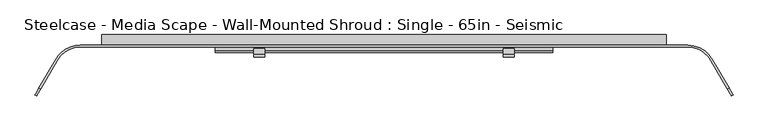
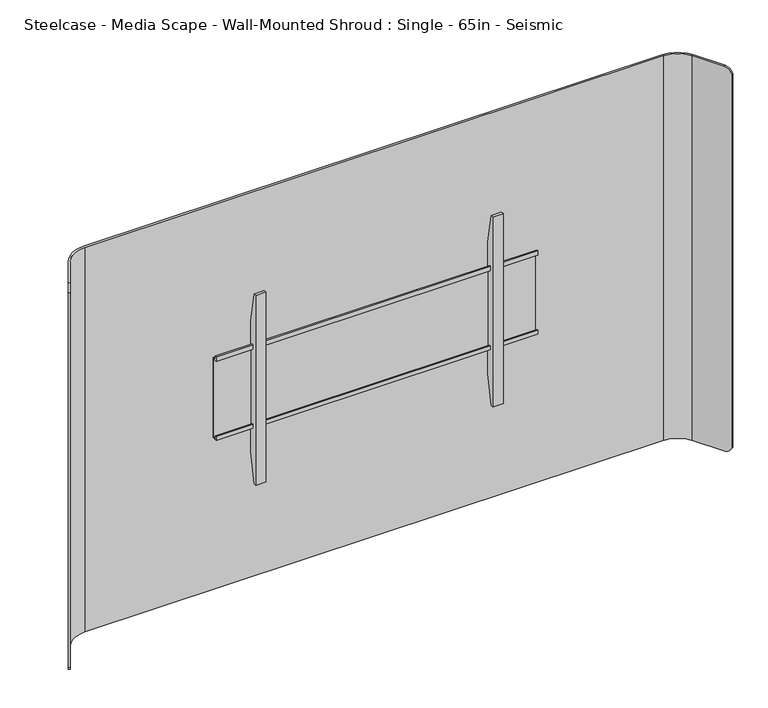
"""IFC4 building model written with IfcOpenShell, lengths in millimetres: furniture geometry, Steelcase - Media Scape - Wall-Mounted Shroud : Single - 65in - Seismic."""

from ifc_helpers import new_model, si_unit, frame, origin, place, context, project, spatial, polyline, circle_curve, outline, extrude, source, transform, mapped, element, save
from ifc_brep_helpers import plane_surface, cylinder_surface, revolved_surface, advanced_brep


def steelcase_media_scape_wall_mounted_shroud_single_65in_a4da2b3e(model_context):
    return source(origin(), model_context, "Body", "SolidModel", [
        extrude(outline(polyline([(-42.4942785, 1453.5504726), (-42.4942785, 1465.5645649), (-39.8272175, 1465.5645649), (-39.8272175, 1456.217461), (-29.9720009, 1456.217461), (-29.9720009, 1241.8922438), (-42.3164551, 1241.8922438), (-42.3164551, 1252.8142515), (-39.649394, 1252.8142515), (-39.649394, 1244.557052), (-32.6531824, 1244.557052), (-32.6531824, 1453.5504726), (-42.4942785, 1453.5504726)])), frame((-406.4, 0.0, 0.0), z_axis=(1.0, 0.0, 0.0), x_axis=(0.0, 1.0, 0.0)), (0.0, 0.0, 1.0), 812.8),
        extrude(outline(polyline([(-32.6531824, 1524.4971148), (-32.6531824, 1172.6825607), (-46.5049349, 1095.0546949), (-53.3399828, 1095.0546949), (-53.3399828, 1603.0547192), (-46.5050076, 1603.0547192), (-32.6531824, 1524.4971148)])), frame((286.6392868, 0.0, 0.0), z_axis=(1.0, 0.0, 0.0), x_axis=(0.0, 1.0, 0.0)), (0.0, 0.0, 1.0), 26.1592872),
        extrude(outline(polyline([(-32.6531824, 1524.4971148), (-32.6531824, 1172.6825607), (-46.5049349, 1095.0546949), (-53.3399828, 1095.0546949), (-53.3399828, 1603.0547192), (-46.5050076, 1603.0547192), (-32.6531824, 1524.4971148)])), frame((-312.798574, 0.0, 0.0), z_axis=(1.0, 0.0, 0.0), x_axis=(0.0, 1.0, 0.0)), (0.0, 0.0, 1.0), 26.1592872),
        extrude(outline(polyline([(679.45, -25.4), (-679.45, -25.4), (-679.45, 0.0), (679.45, 0.0), (679.45, -25.4)])), frame((0.0, 0.0, 835.914), z_axis=(0.0, 0.0, 1.0), x_axis=(1.0, 0.0, 0.0)), (0.0, 0.0, 1.0), 76.2508167),
        advanced_brep(
        [(-786.2586135, -61.722, 1864.614), (-731.266002, -29.9720009, 1864.614), (731.266, -29.9720009, 1864.614), (786.2586135, -61.722, 1864.614), (826.379586, -131.2135628, 1864.614), (830.3390541, -128.9275628, 1864.614), (790.2180817, -59.436, 1864.614), (731.266002, -25.4, 1864.614), (-731.266, -25.4, 1864.614), (-790.2180817, -59.436, 1864.614), (-830.3421659, -128.9329524, 1864.614), (-826.3826977, -131.2189524, 1864.614), (-790.2180817, -59.436, 835.914), (-731.266002, -25.4, 835.914), (731.266, -25.4, 835.914), (790.2180817, -59.436, 835.914), (830.3906629, -129.0169518, 835.914), (826.4311948, -131.3029518, 835.914), (786.2586135, -61.722, 835.914), (731.266002, -29.9720009, 835.914), (-731.266, -29.9720009, 835.914), (-786.2586135, -61.722, 835.914), (-826.4454014, -131.3275584, 835.914), (-830.4048695, -129.0415584, 835.914), (-839.9090632, -145.5033047, 849.5242766), (-839.9090632, -145.5033047, 1850.6227735), (-835.9495951, -147.7893047, 1850.6227735), (-835.9495951, -147.7893047, 849.5242766), (835.9270866, -147.7503189, 849.4756893), (835.9270866, -147.7503189, 1850.7433849), (839.8865547, -145.4643189, 1850.7433849), (839.8865547, -145.4643189, 849.4756893)],
        [
            (0, 1, circle_curve(frame((-731.266002, -93.4719991, 1864.614), z_axis=(0.0, 0.0, -1.0), x_axis=(0.0, 1.0, 0.0)), 63.4999981)),
            (1, 2),
            (2, 3, circle_curve(frame((731.266002, -93.4719991, 1864.614), z_axis=(0.0, 0.0, -1.0), x_axis=(0.0, 1.0, 0.0)), 63.4999981)),
            (3, 4),
            (4, 5),
            (5, 6),
            (6, 7, circle_curve(frame((731.2660004, -93.472, 1864.614), z_axis=(0.0, 0.0, 1.0), x_axis=(0.0, 1.0, 0.0)), 68.072)),
            (7, 8),
            (8, 9, circle_curve(frame((-731.2660004, -93.472, 1864.614), z_axis=(0.0, 0.0, 1.0), x_axis=(0.0, 1.0, 0.0)), 68.072)),
            (9, 10),
            (10, 11),
            (11, 0),
            (12, 13, circle_curve(frame((-731.2660004, -93.472, 835.914), z_axis=(0.0, 0.0, -1.0), x_axis=(0.0, 1.0, 0.0)), 68.072)),
            (13, 14),
            (14, 15, circle_curve(frame((731.2660004, -93.472, 835.914), z_axis=(0.0, 0.0, -1.0), x_axis=(0.0, 1.0, 0.0)), 68.072)),
            (15, 16),
            (16, 17),
            (17, 18),
            (18, 19, circle_curve(frame((731.266002, -93.4719991, 835.914), z_axis=(0.0, 0.0, 1.0), x_axis=(0.0, 1.0, 0.0)), 63.4999981)),
            (19, 20),
            (20, 21, circle_curve(frame((-731.266002, -93.4719991, 835.914), z_axis=(0.0, 0.0, 1.0), x_axis=(0.0, 1.0, 0.0)), 63.4999981)),
            (21, 22),
            (22, 23),
            (23, 12),
            (0, 21),
            (20, 1),
            (8, 13),
            (12, 9),
            (23, 24, circle_curve(frame((-830.4048695, -129.0415584, 855.9928872), z_axis=(-0.8660254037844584, 0.49999999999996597, 0.0), x_axis=(-0.49999999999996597, -0.8660254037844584, 0.0)), 20.0788872)),
            (24, 25),
            (25, 10, circle_curve(frame((-830.3421659, -128.9329524, 1844.5351128), z_axis=(-0.8660254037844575, 0.4999999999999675, 0.0), x_axis=(-0.4999999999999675, -0.8660254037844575, 0.0)), 20.0788872)),
            (26, 25),
            (24, 27),
            (27, 26),
            (11, 26, circle_curve(frame((-826.3826977, -131.2189524, 1844.5351128), z_axis=(0.8660254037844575, -0.4999999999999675, 0.0), x_axis=(-0.4999999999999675, -0.8660254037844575, 0.0)), 20.0788872)),
            (27, 22, circle_curve(frame((-826.4454014, -131.3275584, 855.9928872), z_axis=(0.8660254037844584, -0.49999999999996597, 0.0), x_axis=(-0.49999999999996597, -0.8660254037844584, 0.0)), 20.0788872)),
            (7, 14),
            (19, 2),
            (3, 18),
            (17, 28, circle_curve(frame((826.4311948, -131.3029518, 855.9928872), z_axis=(-0.8660254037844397, -0.49999999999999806, 0.0), x_axis=(0.49999999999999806, -0.8660254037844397, 0.0)), 20.0788872)),
            (28, 29),
            (29, 4, circle_curve(frame((826.379586, -131.2135628, 1844.5351128), z_axis=(-0.8660254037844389, -0.49999999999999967, 0.0), x_axis=(0.49999999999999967, -0.8660254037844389, 0.0)), 20.0788872)),
            (30, 29),
            (28, 31),
            (31, 30),
            (15, 6),
            (5, 30, circle_curve(frame((830.3390541, -128.9275628, 1844.5351128), z_axis=(0.8660254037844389, 0.49999999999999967, 0.0), x_axis=(0.49999999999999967, -0.8660254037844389, 0.0)), 20.0788872)),
            (31, 16, circle_curve(frame((830.3906629, -129.0169518, 855.9928872), z_axis=(0.8660254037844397, 0.49999999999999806, 0.0), x_axis=(0.49999999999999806, -0.8660254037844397, 0.0)), 20.0788872)),
        ],
        [
            plane_surface(frame((-731.266002, -29.9720009, 1864.614), z_axis=(0.0, 0.0, 1.0), x_axis=(1.0, 0.0, 0.0))),
            plane_surface(frame((-731.266002, -29.9720009, 835.914), z_axis=(0.0, 0.0, -1.0), x_axis=(-1.0, 0.0, 0.0))),
            revolved_surface(polyline([(-731.266002, -29.972001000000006, 835.914), (-731.266002, -29.972001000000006, 1864.614)]), (-731.266002, -93.4719991, 835.914), (0.0, 0.0, -1.0)),
            cylinder_surface(frame((-731.2660004, -93.472, 835.914), z_axis=(0.0, 0.0, 1.0), x_axis=(0.0, 1.0, 0.0)), 68.072),
            plane_surface(frame((-790.2180817, -59.436, 1864.614), z_axis=(-0.8660254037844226, 0.5000000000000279, 0.0), x_axis=(0.0, 0.0, -1.0))),
            plane_surface(frame((-839.9090632, -145.5033047, 1864.614), z_axis=(-0.5000000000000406, -0.8660254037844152, 0.0), x_axis=(0.0, 0.0, -1.0))),
            plane_surface(frame((-835.9495951, -147.7893047, 1864.614), z_axis=(0.8660254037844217, -0.5000000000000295, 0.0), x_axis=(0.0, 0.0, -1.0))),
            plane_surface(frame((731.266, -25.4, 1864.614), z_axis=(0.0, 1.0, 0.0), x_axis=(0.0, 0.0, -1.0))),
            plane_surface(frame((-731.266, -29.9720009, 1864.614), z_axis=(0.0, -1.0, 0.0), x_axis=(0.0, 0.0, -1.0))),
            plane_surface(frame((786.2586135, -61.722, 1864.614), z_axis=(-0.8660254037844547, -0.4999999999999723, 0.0), x_axis=(0.0, 0.0, -1.0))),
            plane_surface(frame((835.9270866, -147.7503189, 1864.614), z_axis=(0.4999999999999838, -0.866025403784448, 0.0), x_axis=(0.0, 0.0, -1.0))),
            plane_surface(frame((839.8865547, -145.4643189, 1864.614), z_axis=(0.8660254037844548, 0.49999999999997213, 0.0), x_axis=(0.0, 0.0, -1.0))),
            cylinder_surface(frame((731.2660004, -93.472, 835.914), z_axis=(0.0, 0.0, 1.0), x_axis=(0.0, 1.0, 0.0)), 68.072),
            revolved_surface(polyline([(731.266002, -29.972001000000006, 835.914), (731.266002, -29.972001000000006, 1864.614)]), (731.266002, -93.4719991, 835.914), (0.0, 0.0, -1.0)),
            cylinder_surface(frame((-826.3826977, -131.2189524, 1844.5351128), z_axis=(0.8660254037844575, -0.4999999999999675, 0.0), x_axis=(-0.4999999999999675, -0.8660254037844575, 0.0)), 20.0788872),
            cylinder_surface(frame((-826.4454014, -131.3275584, 855.9928872), z_axis=(0.8660254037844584, -0.49999999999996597, 0.0), x_axis=(-0.49999999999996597, -0.8660254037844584, 0.0)), 20.0788872),
            cylinder_surface(frame((841.4864297, -122.4916225, 1844.5351128), z_axis=(0.8660254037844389, 0.49999999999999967, 0.0), x_axis=(0.49999999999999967, -0.8660254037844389, 0.0)), 20.0788872),
            cylinder_surface(frame((838.6789695, -124.2316958, 855.9928872), z_axis=(0.8660254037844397, 0.49999999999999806, 0.0), x_axis=(0.49999999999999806, -0.8660254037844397, 0.0)), 20.0788872),
        ],
        [
            (0, [[1, 2, 3, 4, 5, 6, 7, 8, 9, 10, 11, 12]]),
            (1, [[13, 14, 15, 16, 17, 18, 19, 20, 21, 22, 23, 24]]),
            (2, [[-1, 25, -21, 26]]),
            (3, [[-9, 27, -13, 28]]),
            (4, [[-28, -24, 29, 30, 31, -10]]),
            (5, [[32, -30, 33, 34]]),
            (6, [[-25, -12, 35, -34, 36, -22]]),
            (7, [[-8, 37, -14, -27]]),
            (8, [[-2, -26, -20, 38]]),
            (9, [[39, -18, 40, 41, 42, -4]]),
            (10, [[43, -41, 44, 45]]),
            (11, [[46, -6, 47, -45, 48, -16]]),
            (12, [[-7, -46, -15, -37]]),
            (13, [[-3, -38, -19, -39]]),
            (14, [[-11, -31, -32, -35]]),
            (15, [[-23, -36, -33, -29]]),
            (16, [[-5, -42, -43, -47]]),
            (17, [[-17, -48, -44, -40]]),
        ],
    ),
        extrude(outline(polyline([(912.1648167, 615.9499879), (912.1648167, 679.45), (1788.414, 679.45), (1788.414, -679.45), (912.1648167, -679.45), (912.1648167, -616.9433465), (1724.9139516, -616.9433465), (1724.9139516, 615.9499879), (912.1648167, 615.9499879)])), frame((0.0, -25.4, 0.0), z_axis=(0.0, 1.0, 0.0), x_axis=(0.0, 0.0, 1.0)), (0.0, 0.0, 1.0), 25.4),
    ])


if __name__ == "__main__":
    model = new_model("IFC4")
    model_context = context("Model", 3, world=origin())
    ifc_project = project(units=[si_unit("LENGTHUNIT", "METRE", prefix="MILLI")], contexts=[model_context])
    site = spatial("IfcSite", under=ifc_project)
    building = spatial("IfcBuilding", under=site)
    placement = place(None, origin())
    steelcase_media_scape_wall_mounted_shroud_single_65in_shape = steelcase_media_scape_wall_mounted_shroud_single_65in_a4da2b3e(model_context)
    element("IfcFurniture", 1, ObjectType="Steelcase - Media Scape - Wall-Mounted Shroud : Single - 65in - Seismic", at=placement, inside=building, context=model_context, shape_type="MappedRepresentation", body=[
        mapped(steelcase_media_scape_wall_mounted_shroud_single_65in_shape, transform((0.0, 0.0, 0.0), x_axis=(1.0, 0.0, 0.0), y_axis=(0.0, 1.0, 0.0), z_axis=(0.0, 0.0, 1.0))),
    ])
    save(model, "model.ifc")
